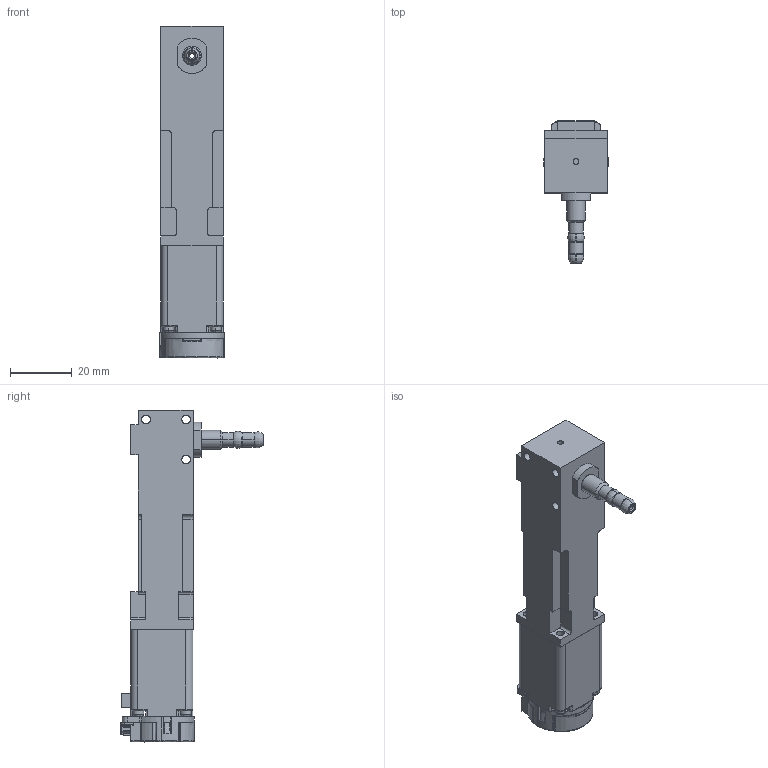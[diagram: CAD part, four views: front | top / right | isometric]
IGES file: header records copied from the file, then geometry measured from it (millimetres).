
Start section: SolidWorks IGES file using analytic representation for surfaces
Global section: file name: C:\SWPDM\GDT\TriContinent\MOD\Assembly Web\MOD91026\MOD91026 RA.IGS; native system: SolidWorks 2015; preprocessor: SolidWorks 2015; author: RAW2042; date: 170517.093618; units: inch
Bounding box: 20.98 x 46.22 x 107.62 mm (x, y, z)
Surface area: 13654.4 mm2 (no closed solid volume)
Topology: 0 solids, 0 shells, 451 faces, 4859 edges, 4853 vertices
Faces by surface type: bspline 291, revolution 160
